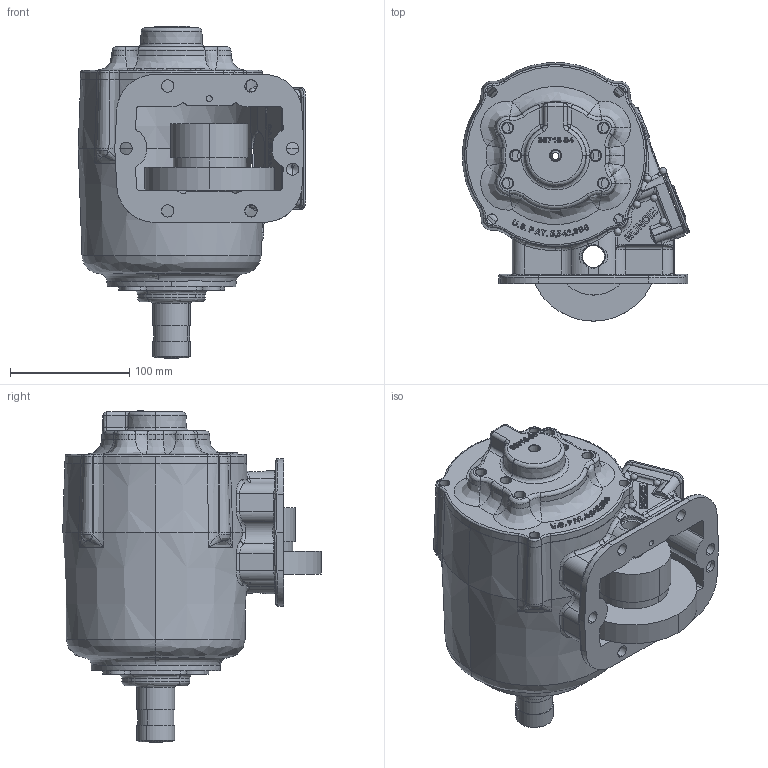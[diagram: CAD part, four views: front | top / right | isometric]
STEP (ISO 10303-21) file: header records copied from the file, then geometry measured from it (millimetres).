
FILE_DESCRIPTION (( 'STEP AP203' ), '1' );
FILE_NAME ('CS6S-XXXXX-X2BX.STEP', '2011-11-01T20:03:23', ( 'User' ), ( 'Muncie Power Products, Inc.' ), 'SwSTEP 2.0', 'SolidWorks 2011', '' );
FILE_SCHEMA (( 'CONFIG_CONTROL_DESIGN' ));
Length unit declared in the file: inch
Products named in the file (1): CS6S-XXXXX-X2BX
Bounding box: 190.82 x 216.75 x 278.52 mm (x, y, z)
Surface area: 295533.1 mm2 (no closed solid volume)
Topology: 0 solids, 19 shells, 1274 faces, 4017 edges, 2616 vertices
Faces by surface type: bspline 659, cylinder 261, plane 236, cone 116, torus 2
Entity records: 104080 total; most frequent: CARTESIAN_POINT 75429, ORIENTED_EDGE 6951, EDGE_CURVE 3949, DIRECTION 3507, VERTEX_POINT 2616, B_SPLINE_CURVE_WITH_KNOTS 2050, EDGE_LOOP 1411, LINE 1323
